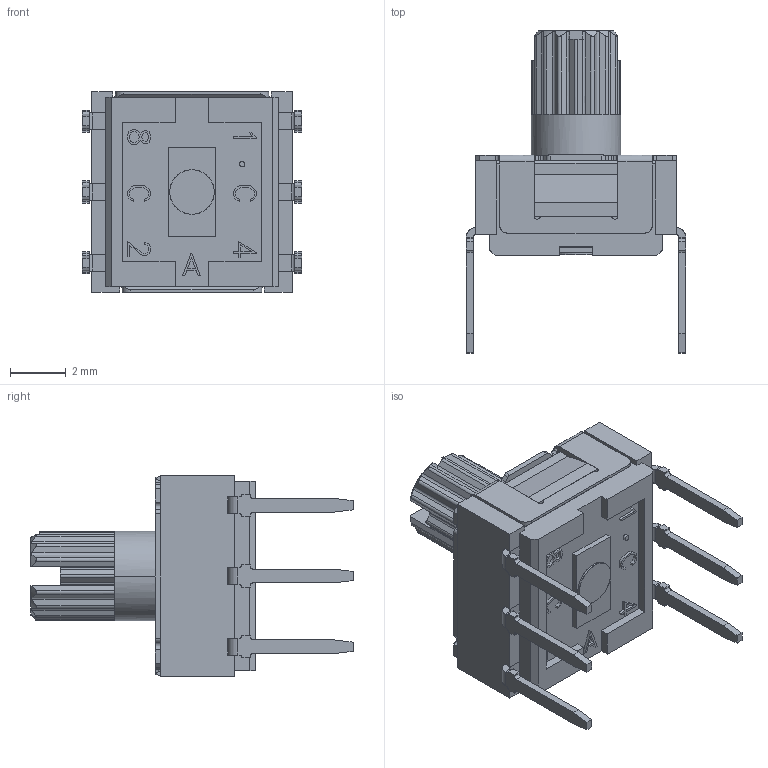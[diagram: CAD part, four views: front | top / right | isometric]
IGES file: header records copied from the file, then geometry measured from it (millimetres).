
Start section: SolidWorks IGES file using analytic representation for surfaces
Global section: file name: F:\0-¤u§@°Ï\RSH(20190527)\3D\RSH-3FRH.IGS; native system: SolidWorks 2017; preprocessor: SolidWorks 2017; author: austi; date: 190701.133128; units: millimetre
Bounding box: 7.87 x 11.56 x 7.2 mm (x, y, z)
Surface area: 720.5 mm2 (no closed solid volume)
Topology: 0 solids, 0 shells, 1419 faces, 11638 edges, 11638 vertices
Faces by surface type: bspline 1030, revolution 389
